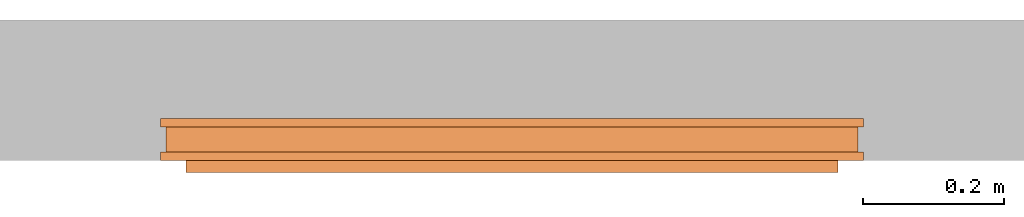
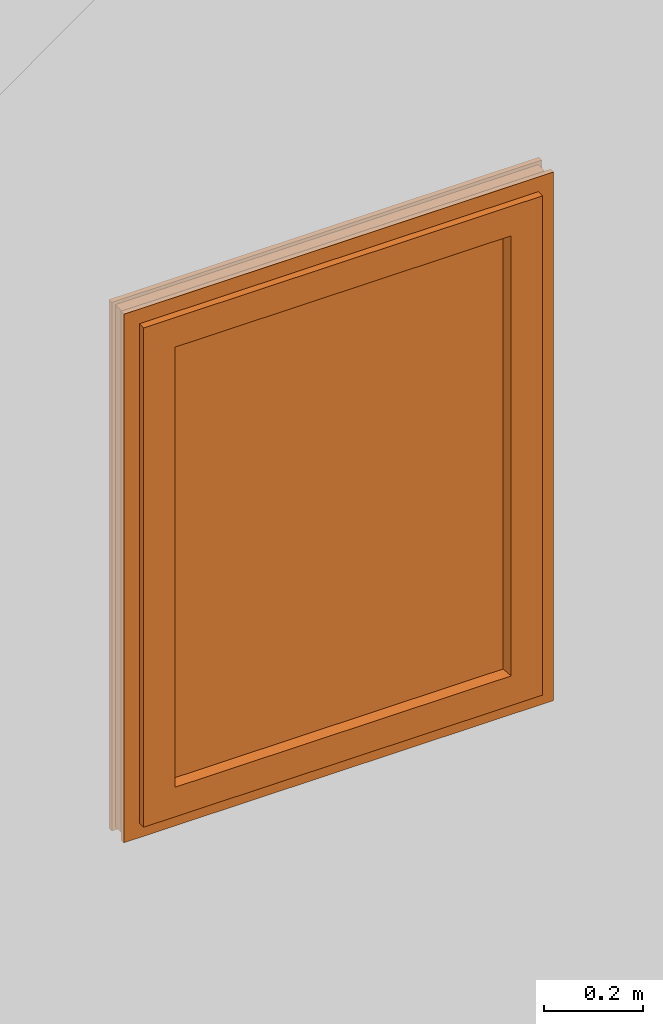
# One storey, part 2 of 2: 1 proxy.
"""IFC2X3 building model written with IfcOpenShell, lengths in millimetres."""

import ifcopenshell
import ifcopenshell.guid

model = None  # the IFC model being written
_history = None  # IfcOwnerHistory: only IFC2X3 demands one
_inside = {}  # id of a spatial element -> (the spatial element, [elements in it])
_under = {}  # id of a project, library or spatial element -> (it, [spatial elements below it])
_declared = {}  # id of a project -> (the project, [libraries it declares])
_typed = {}  # id of a type object -> (the type object, [elements of that type])
_made_of = {}  # id of a material, layer set ... -> (it, [elements and type objects made of it])


def new_model(schema):
    """Start an empty IFC model of exactly this schema.

    Asked for "IFC4X3", IfcOpenShell would pick the latest addendum, in which some entities
    have other attributes; the version numbers below select the first issue.
    IFC2X3 requires an IfcOwnerHistory on every rooted entity: one is made here for all.
    """
    global model, _history
    if schema == "IFC4X3":
        model = ifcopenshell.file(schema_version=(4, 3, 0, 0))
    else:
        model = ifcopenshell.file(schema=schema)
    _inside.clear()
    _under.clear()
    _declared.clear()
    _typed.clear()
    _made_of.clear()
    _history = None
    if model.schema == "IFC2X3":
        org = make("IfcOrganization", Name="unknown")
        user = make(
            "IfcPersonAndOrganization",
            ThePerson=make("IfcPerson", FamilyName="unknown"),
            TheOrganization=org,
        )
        app = make(
            "IfcApplication",
            ApplicationDeveloper=org,
            Version="unknown",
            ApplicationFullName="unknown",
            ApplicationIdentifier="unknown",
        )
        _history = make(
            "IfcOwnerHistory",
            OwningUser=user,
            OwningApplication=app,
            ChangeAction="ADDED",
            CreationDate=0,
        )
    return model


def make(cls, **values):
    """One entity of the class cls with the attributes given. An attribute that is None is left unset."""
    return model.create_entity(
        cls, **{name: value for name, value in values.items() if value is not None}
    )


def entity(cls, *values):
    """Any entity or typed value of the class cls, its attributes in the order of the schema. None: left unset."""
    e = model.create_entity(cls)
    for i, value in enumerate(values):
        if value is not None:
            e[i] = value
    return e


def rooted(cls, **values):
    """An entity with a GlobalId (a new one), such as an element, a storey or a relation."""
    return make(cls, GlobalId=ifcopenshell.guid.new(), OwnerHistory=_history, **values)


def si_unit(unit_type, name, prefix=None):
    """IfcSIUnit, for example si_unit("LENGTHUNIT", "METRE", prefix="MILLI")."""
    return make("IfcSIUnit", UnitType=unit_type, Prefix=prefix, Name=name)


def converted_unit(unit_type, name, factor, base, dimensions=None, offset=None):
    """IfcConversionBasedUnit, such as the inch: factor (a typed value) times the base unit."""
    return make(
        "IfcConversionBasedUnit"
        if offset is None
        else "IfcConversionBasedUnitWithOffset",
        ConversionOffset=offset,
        Dimensions=None
        if dimensions is None
        else entity("IfcDimensionalExponents", *dimensions),
        UnitType=unit_type,
        Name=name,
        ConversionFactor=make(
            "IfcMeasureWithUnit", ValueComponent=factor, UnitComponent=base
        ),
    )


def derived_unit(unit_type, elements):
    """IfcDerivedUnit: a product of units, each with its exponent."""
    return make(
        "IfcDerivedUnit",
        Elements=[
            make("IfcDerivedUnitElement", Unit=unit, Exponent=power)
            for unit, power in elements
        ],
        UnitType=unit_type,
    )


def assignment(units):
    """IfcUnitAssignment: the units of a project."""
    return None if units is None else make("IfcUnitAssignment", Units=units)


def point(xyz):
    """IfcCartesianPoint."""
    return None if xyz is None else make("IfcCartesianPoint", Coordinates=xyz)


def direction(xyz):
    """IfcDirection."""
    return None if xyz is None else make("IfcDirection", DirectionRatios=xyz)


def frame(location, z_axis=None, x_axis=None):
    """IfcAxis2Placement3D, a coordinate frame: its origin and axes. An axis left out is left unset."""
    return make(
        "IfcAxis2Placement3D",
        Location=point(location),
        Axis=direction(z_axis),
        RefDirection=direction(x_axis),
    )


def origin():
    """The frame at (0, 0, 0) with its axes left unset."""
    return frame((0.0, 0.0, 0.0))


def place(relative_to, where):
    """IfcLocalPlacement: puts the frame where relative to a parent placement (None: the world)."""
    return make(
        "IfcLocalPlacement", PlacementRelTo=relative_to, RelativePlacement=where
    )


def context(
    kind, dimensions, precision=None, world=None, true_north=None, identifier=None
):
    """IfcGeometricRepresentationContext, for example the 3D "Model" context."""
    return make(
        "IfcGeometricRepresentationContext",
        ContextIdentifier=identifier,
        ContextType=kind,
        CoordinateSpaceDimension=dimensions,
        Precision=precision,
        WorldCoordinateSystem=world,
        TrueNorth=true_north,
    )


def subcontext(parent, identifier, kind, view, scale=None):
    """IfcGeometricRepresentationSubContext, for example "Body" below "Model"."""
    return make(
        "IfcGeometricRepresentationSubContext",
        ContextIdentifier=identifier,
        ContextType=kind,
        ParentContext=parent,
        TargetScale=scale,
        TargetView=view,
    )


def project(units=None, contexts=None):
    """IfcProject with its units and contexts."""
    return rooted(
        "IfcProject",
        Name="project",
        RepresentationContexts=contexts,
        UnitsInContext=assignment(units),
    )


def spatial(cls, under=None, at=None, **own):
    """A site, building, storey or space (cls), placed at a placement, below another one or the project."""
    s = rooted(cls, ObjectPlacement=at, **own)
    if under is not None:
        _under.setdefault(under.id(), (under, []))[1].append(s)
    return s


def faces_of(points, faces, orient=None, outer=None):
    """IfcFace entities. A face is a list of loops; a loop is a list of indices into points, from 0.

    orient and outer hold one flag for each loop. By default every Orientation is true, the
    first loop of a face is its IfcFaceOuterBound and the others are IfcFaceBound.
    """
    made = []
    for i, loops in enumerate(faces):
        bounds = []
        for j, loop in enumerate(loops):
            is_outer = j == 0 if outer is None else outer[i][j]
            bounds.append(
                make(
                    "IfcFaceOuterBound" if is_outer else "IfcFaceBound",
                    Bound=make("IfcPolyLoop", Polygon=[points[k] for k in loop]),
                    Orientation=True if orient is None else orient[i][j],
                )
            )
        made.append(make("IfcFace", Bounds=bounds))
    return made


def faceted_brep(points, faces, orient=None, outer=None, voids=None):
    """IfcFacetedBrep: a solid bounded by flat faces; with voids (closed shells), ...WithVoids."""
    shared = [point(p) for p in points]
    hull = make("IfcClosedShell", CfsFaces=faces_of(shared, faces, orient, outer))
    if voids is None:
        return make("IfcFacetedBrep", Outer=hull)
    return make(
        "IfcFacetedBrepWithVoids",
        Outer=hull,
        Voids=[
            make(cls, CfsFaces=faces_of(shared, fs, o, b)) for cls, fs, o, b in voids
        ],
    )


def shape(context_of_items, identifier, shape_type, items):
    """IfcShapeRepresentation: the items that make up one representation, for example the "Body"."""
    return make(
        "IfcShapeRepresentation",
        ContextOfItems=context_of_items,
        RepresentationIdentifier=identifier,
        RepresentationType=shape_type,
        Items=items,
    )


def source(mapping_origin, context_of_items, identifier, shape_type, items):
    """IfcRepresentationMap: a shape defined once, which mapped items show again and again."""
    return make(
        "IfcRepresentationMap",
        MappingOrigin=mapping_origin,
        MappedRepresentation=shape(context_of_items, identifier, shape_type, items),
    )


def transform(
    local_origin,
    x_axis=None,
    y_axis=None,
    z_axis=None,
    scale=None,
    scale2=None,
    scale3=None,
    uniform=True,
):
    """IfcCartesianTransformationOperator3D, or its non-uniform kind. x_axis, y_axis, z_axis: its Axis1, 2, 3."""
    if uniform:
        return make(
            "IfcCartesianTransformationOperator3D",
            Axis1=direction(x_axis),
            Axis2=direction(y_axis),
            LocalOrigin=point(local_origin),
            Scale=scale,
            Axis3=direction(z_axis),
        )
    return make(
        "IfcCartesianTransformationOperator3DnonUniform",
        Axis1=direction(x_axis),
        Axis2=direction(y_axis),
        LocalOrigin=point(local_origin),
        Scale=scale,
        Axis3=direction(z_axis),
        Scale2=scale2,
        Scale3=scale3,
    )


def mapped(mapping_source, mapping_target):
    """IfcMappedItem: shows the shape of a source again, moved by a transform."""
    return make(
        "IfcMappedItem", MappingSource=mapping_source, MappingTarget=mapping_target
    )


def material(Name=None, Category=None):
    """IfcMaterial."""
    return make("IfcMaterial", Name=Name, Category=Category)


def material_list(materials):
    """IfcMaterialList."""
    return make("IfcMaterialList", Materials=materials)


def made_of(thing, what):
    """Note that an element or type object is made of a material, layer set ...; save() writes the relation."""
    if what is not None:
        _made_of.setdefault(what.id(), (what, []))[1].append(thing)
    return thing


def type_object(cls, material=None, **own):
    """A type object (cls), such as IfcWallType, which elements share."""
    return made_of(rooted(cls, **own), material)


def type_shapes(of_type, sources):
    """Give a type object the sources (RepresentationMaps) that its elements show as mapped items."""
    of_type.RepresentationMaps = sources


def element(
    cls,
    number,
    at=None,
    inside=None,
    cuts=None,
    type_object=None,
    material=None,
    context=None,
    identifier="Body",
    shape_type=None,
    held_by="IfcProductDefinitionShape",
    body=None,
    shapes=None,
    **own,
):
    """One element of the class cls, such as IfcWall. Its Tag is "e" and its number.

    at: its placement. inside: the storey or other place that contains it. cuts: it is an
    opening in that element (IfcRelVoidsElement). A single representation is given by context,
    identifier, shape_type and body (its items); several are given by shapes. held_by: the class
    of the entity that holds the representations. save() writes the other relations.
    """
    e = rooted(cls, Tag="e%d" % number, ObjectPlacement=at, **own)
    if body is not None:
        shapes = [shape(context, identifier, shape_type, body)]
    if shapes is not None:
        e.Representation = make(held_by, Representations=shapes)
    if inside is not None:
        _inside.setdefault(inside.id(), (inside, []))[1].append(e)
    if cuts is not None:
        rooted(
            "IfcRelVoidsElement", RelatingBuildingElement=cuts, RelatedOpeningElement=e
        )
    if type_object is not None:
        _typed.setdefault(type_object.id(), (type_object, []))[1].append(e)
    return made_of(e, material)


def aggregate(whole, parts):
    """IfcRelAggregates: a whole, such as a stair, and the parts it consists of."""
    return rooted("IfcRelAggregates", RelatingObject=whole, RelatedObjects=parts)


def save(model, path):
    """Write the relations noted so far, then the file.

    IfcRelAggregates (storeys below a building ...), IfcRelContainedInSpatialStructure (elements
    in a storey), IfcRelDefinesByType, IfcRelAssociatesMaterial and IfcRelDeclares: one each for
    every whole, place, type object, material and project.
    """
    for whole, parts in _under.values():
        aggregate(whole, parts)
    for where, things in _inside.values():
        rooted(
            "IfcRelContainedInSpatialStructure",
            RelatedElements=things,
            RelatingStructure=where,
        )
    for kind, things in _typed.values():
        rooted("IfcRelDefinesByType", RelatedObjects=things, RelatingType=kind)
    for what, things in _made_of.values():
        rooted("IfcRelAssociatesMaterial", RelatedObjects=things, RelatingMaterial=what)
    for by, libraries in _declared.values():
        rooted("IfcRelDeclares", RelatingContext=by, RelatedDefinitions=libraries)
    model.write(path)


model = new_model("IFC2X3")

# Units and contexts
model_context = context("Model", 3, precision=0.01, world=origin(), true_north=direction((6.12303176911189e-17, 1.0)))
body_context = subcontext(model_context, "Body", "Model", "MODEL_VIEW")
ifc_project = project(units=[si_unit("LENGTHUNIT", "METRE", prefix="MILLI"), si_unit("AREAUNIT", "SQUARE_METRE"), si_unit("VOLUMEUNIT", "CUBIC_METRE"), converted_unit("PLANEANGLEUNIT", "DEGREE", entity("IfcRatioMeasure", 0.0174532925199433), si_unit("PLANEANGLEUNIT", "RADIAN"), dimensions=[0, 0, 0, 0, 0, 0, 0]), si_unit("MASSUNIT", "GRAM", prefix="KILO"), derived_unit("MASSDENSITYUNIT", [(si_unit("MASSUNIT", "GRAM", prefix="KILO"), 1), (si_unit("LENGTHUNIT", "METRE"), -3)]), si_unit("TIMEUNIT", "SECOND"), si_unit("FREQUENCYUNIT", "HERTZ"), si_unit("THERMODYNAMICTEMPERATUREUNIT", "DEGREE_CELSIUS"), derived_unit("THERMALTRANSMITTANCEUNIT", [(si_unit("MASSUNIT", "GRAM", prefix="KILO"), 1), (si_unit("THERMODYNAMICTEMPERATUREUNIT", "KELVIN"), -1), (si_unit("TIMEUNIT", "SECOND"), -3)]), derived_unit("VOLUMETRICFLOWRATEUNIT", [(si_unit("LENGTHUNIT", "METRE"), 3), (si_unit("TIMEUNIT", "SECOND"), -1)]), si_unit("ELECTRICCURRENTUNIT", "AMPERE"), si_unit("ELECTRICVOLTAGEUNIT", "VOLT"), si_unit("POWERUNIT", "WATT"), si_unit("FORCEUNIT", "NEWTON", prefix="KILO"), si_unit("ILLUMINANCEUNIT", "LUX"), si_unit("LUMINOUSFLUXUNIT", "LUMEN"), si_unit("LUMINOUSINTENSITYUNIT", "CANDELA"), derived_unit("USERDEFINED", [(si_unit("MASSUNIT", "GRAM", prefix="KILO"), -1), (si_unit("LENGTHUNIT", "METRE"), -2), (si_unit("TIMEUNIT", "SECOND"), 3), (si_unit("LUMINOUSFLUXUNIT", "LUMEN"), 1)]), derived_unit("LINEARVELOCITYUNIT", [(si_unit("LENGTHUNIT", "METRE"), 1), (si_unit("TIMEUNIT", "SECOND"), -1)]), si_unit("PRESSUREUNIT", "PASCAL"), derived_unit("USERDEFINED", [(si_unit("LENGTHUNIT", "METRE"), -2), (si_unit("MASSUNIT", "GRAM", prefix="KILO"), 1), (si_unit("TIMEUNIT", "SECOND"), -2)])], contexts=[model_context])

# Site, building, storey
site_placement = place(None, origin())
site = spatial("IfcSite", under=ifc_project, at=site_placement, Name="Default", CompositionType="ELEMENT")
building_placement = place(site_placement, origin())
building = spatial("IfcBuilding", under=site, at=building_placement, CompositionType="ELEMENT")
storey_placement = place(building_placement, origin())
storey = spatial("IfcBuildingStorey", under=building, at=storey_placement, Name="Nivel 1", CompositionType="ELEMENT", Elevation=0.0)

# Proxy
ifc_material_1 = material(Name="RAU-PVC")
ifc_material_2 = material(Name="Glass")
ifc_material_list_1 = material_list([ifc_material_1, ifc_material_2])
ifc_material_list_2 = material_list([ifc_material_1, ifc_material_2])
building_element_proxy_type = type_object("IfcBuildingElementProxyType", Name="4.1 REH_ED-60 H T79", material=ifc_material_list_2)
shared_shape = source(origin(), body_context, "Body", "Brep", [
    faceted_brep([(964.000685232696, 77.0, 1264.00068523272), (964.000685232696, 60.0, 1264.00068523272), (964.000685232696, 60.0, 35.9993147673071), (964.000685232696, 77.0, 35.9993147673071), (885.325009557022, 55.0, 1185.32500955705), (891.270955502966, 77.0, 1191.27095550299), (891.270955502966, 77.0, 108.729044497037), (885.325009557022, 55.0, 114.674990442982), (904.030685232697, 36.0, 1204.03068523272), (904.030685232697, 55.0, 1204.03068523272), (904.030685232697, 55.0, 95.9693147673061), (904.030685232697, 36.0, 95.9693147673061), (887.350050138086, 17.0, 1187.35005013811), (882.259015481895, 36.0, 1182.25901548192), (882.259015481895, 36.0, 117.740984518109), (887.350050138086, 17.0, 112.649949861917), (944.000685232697, 60.0, 1244.00068523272), (944.000685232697, 17.0, 1244.00068523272), (944.000685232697, 17.0, 55.9993147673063), (944.000685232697, 60.0, 55.9993147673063), (35.9993147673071, 60.0, 35.9993147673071), (35.9993147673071, 77.0, 35.9993147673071), (108.729044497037, 77.0, 108.729044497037), (114.674990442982, 55.0, 114.674990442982), (95.9693147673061, 55.0, 95.9693147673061), (95.9693147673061, 36.0, 95.9693147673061), (117.740984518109, 36.0, 117.740984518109), (112.649949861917, 17.0, 112.649949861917), (55.9993147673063, 17.0, 55.9993147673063), (55.9993147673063, 60.0, 55.9993147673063), (35.999314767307, 60.0, 1264.00068523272), (35.999314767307, 77.0, 1264.00068523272), (108.729044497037, 77.0, 1191.27095550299), (114.674990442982, 55.0, 1185.32500955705), (95.9693147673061, 55.0, 1204.03068523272), (95.9693147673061, 36.0, 1204.03068523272), (117.740984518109, 36.0, 1182.25901548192), (112.649949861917, 17.0, 1187.35005013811), (55.9993147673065, 17.0, 1244.00068523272), (55.9993147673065, 60.0, 1244.00068523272)], [[[0, 1, 2, 3]], [[4, 5, 6, 7]], [[8, 9, 10, 11]], [[12, 13, 14, 15]], [[16, 17, 18, 19]], [[3, 2, 20, 21]], [[7, 6, 22, 23]], [[11, 10, 24, 25]], [[15, 14, 26, 27]], [[19, 18, 28, 29]], [[21, 20, 30, 31]], [[23, 22, 32, 33]], [[25, 24, 34, 35]], [[27, 26, 36, 37]], [[29, 28, 38, 39]], [[31, 30, 1, 0]], [[3, 21, 31, 0], [5, 32, 22, 6]], [[33, 32, 5, 4]], [[7, 23, 33, 4], [9, 34, 24, 10]], [[35, 34, 9, 8]], [[11, 25, 35, 8], [13, 36, 26, 14]], [[37, 36, 13, 12]], [[15, 27, 37, 12], [17, 38, 28, 18]], [[39, 38, 17, 16]], [[19, 29, 39, 16], [1, 30, 20, 2]]], outer=[[True], [True], [True], [True], [True], [True], [True], [True], [True], [True], [True], [True], [True], [True], [True], [True], [True, False], [True], [False, True], [True], [True, False], [True], [False, True], [True], [False, True]]),
    faceted_brep([(60.0, 29.9689840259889, 1240.0), (60.0, 29.9689840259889, 60.0), (940.0, 29.9689840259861, 60.0), (940.0, 29.9689840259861, 1240.0), (60.0, 44.9689840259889, 1240.0), (940.0, 44.9689840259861, 1240.0), (940.0, 44.9689840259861, 60.0), (60.0, 44.9689840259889, 60.0)], [[[0, 1, 2, 3]], [[4, 5, 6, 7]], [[5, 4, 0, 3]], [[6, 5, 3, 2]], [[7, 6, 2, 1]], [[4, 7, 1, 0]]]),
    faceted_brep([(54.0, 12.0, 54.0), (54.0, 0.0, 54.0), (946.0, 0.0, 54.0), (946.0, 12.0, 54.0), (27.798145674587, 48.0, 27.7981456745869), (30.0, 12.0, 30.0), (970.0, 12.0, 30.0), (972.201854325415, 48.0, 27.7981456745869), (54.0, 60.0, 54.0), (54.0, 48.0, 54.0), (946.0, 48.0, 54.0), (946.0, 60.0, 54.0), (0.0, 48.0, 0.0), (0.0, 60.0, 0.0), (1000.0, 60.0, 0.0), (1000.0, 48.0, 0.0), (8.0, 12.0, 8.0), (8.0, 48.0, 8.0), (992.0, 48.0, 8.0), (992.0, 12.0, 8.0), (0.0, 0.0, 0.0), (0.0, 12.0, 0.0), (1000.0, 12.0, 0.0), (1000.0, 0.0, 0.0), (946.0, 0.0, 1246.0), (946.0, 12.0, 1246.0), (970.0, 12.0, 1270.0), (972.201854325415, 48.0, 1272.20185432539), (946.0, 48.0, 1246.0), (946.0, 60.0, 1246.0), (1000.0, 60.0, 1300.0), (1000.0, 48.0, 1300.0), (992.0, 48.0, 1292.0), (992.0, 12.0, 1292.0), (1000.0, 12.0, 1300.0), (1000.0, 0.0, 1300.0), (54.0, 0.0, 1246.0), (54.0, 12.0, 1246.0), (30.0, 12.0, 1270.0), (27.7981456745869, 48.0, 1272.20185432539), (54.0, 48.0, 1246.0), (54.0, 60.0, 1246.0), (0.0, 60.0, 1300.0), (0.0, 48.0, 1300.0), (8.0, 48.0, 1292.0), (8.0, 12.0, 1292.0), (0.0, 12.0, 1300.0), (0.0, 0.0, 1300.0)], [[[0, 1, 2, 3]], [[4, 5, 6, 7]], [[8, 9, 10, 11]], [[12, 13, 14, 15]], [[16, 17, 18, 19]], [[20, 21, 22, 23]], [[3, 2, 24, 25]], [[7, 6, 26, 27]], [[11, 10, 28, 29]], [[15, 14, 30, 31]], [[19, 18, 32, 33]], [[23, 22, 34, 35]], [[25, 24, 36, 37]], [[27, 26, 38, 39]], [[29, 28, 40, 41]], [[31, 30, 42, 43]], [[33, 32, 44, 45]], [[35, 34, 46, 47]], [[37, 36, 1, 0]], [[3, 25, 37, 0], [5, 38, 26, 6]], [[39, 38, 5, 4]], [[7, 27, 39, 4], [9, 40, 28, 10]], [[41, 40, 9, 8]], [[11, 29, 41, 8], [13, 42, 30, 14]], [[43, 42, 13, 12]], [[15, 31, 43, 12], [17, 44, 32, 18]], [[45, 44, 17, 16]], [[19, 33, 45, 16], [21, 46, 34, 22]], [[47, 46, 21, 20]], [[23, 35, 47, 20], [1, 36, 24, 2]]], outer=[[True], [True], [True], [True], [True], [True], [True], [True], [True], [True], [True], [True], [True], [True], [True], [True], [True], [True], [True], [False, True], [True], [True, False], [True], [False, True], [True], [True, False], [True], [False, True], [True], [True, False]]),
])
type_shapes(building_element_proxy_type, [shared_shape])
proxy_placement = place(storey_placement, frame((-287.341910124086, 469.829542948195, 2299.21843404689), z_axis=(0.0, 0.0, 1.0), x_axis=(-1.0, 0.0, 0.0)))
element("IfcBuildingElementProxy", 1, at=proxy_placement, inside=storey, type_object=building_element_proxy_type, material=ifc_material_list_1, Name="4.1 REH_ED-60 H T79 :4.1 REH_ED-60 H T79", ObjectType="4.1 REH_ED-60 H T79", context=body_context, shape_type="MappedRepresentation", body=[
    mapped(shared_shape, transform((0.0, 0.0, 0.0), scale=1.0)),
])

save(model, "model.ifc")
